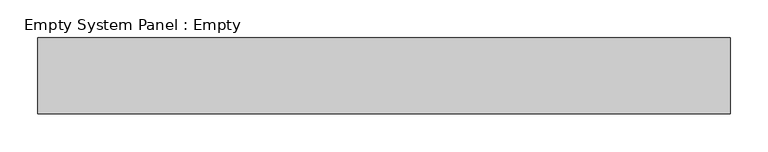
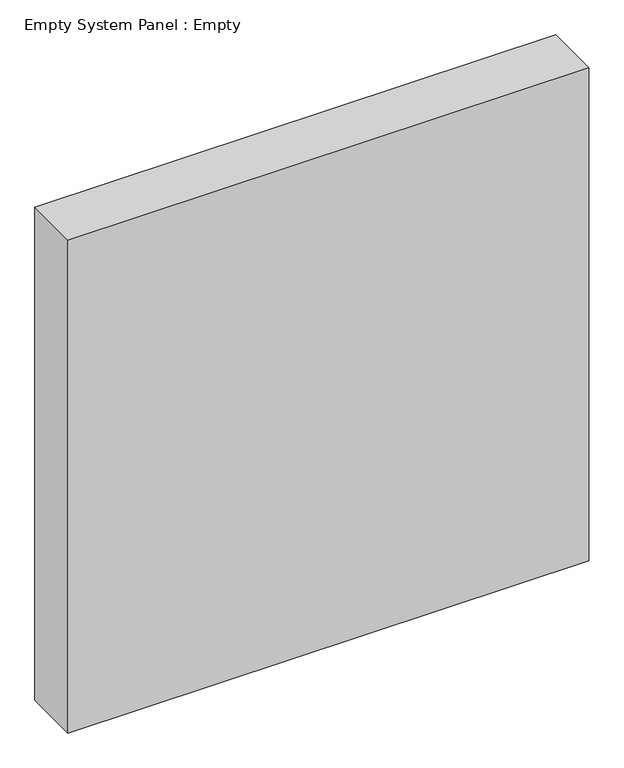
"""IFC4 building model written with IfcOpenShell, lengths in millimetres: plate geometry, Empty System Panel : Empty."""

from ifc_helpers import new_model, si_unit, origin, origin_with_axes, place, context, project, spatial, polyline, outline, extrude, source, transform, mapped, element, save


def empty_system_panel_empty_36c81836(model_context):
    return source(origin(), model_context, "Body", "SweptSolid", [
        extrude(outline(polyline([(456.25, -50.0), (-456.25, -50.0), (-456.25, 50.0), (456.25, 50.0), (456.25, -50.0)])), origin_with_axes(), (0.0, 0.0, 1.0), 912.5),
    ])


if __name__ == "__main__":
    model = new_model("IFC4")
    model_context = context("Model", 3, world=origin())
    ifc_project = project(units=[si_unit("LENGTHUNIT", "METRE", prefix="MILLI")], contexts=[model_context])
    site = spatial("IfcSite", under=ifc_project)
    building = spatial("IfcBuilding", under=site)
    placement = place(None, origin())
    empty_system_panel_empty_shape = empty_system_panel_empty_36c81836(model_context)
    element("IfcPlate", 1, ObjectType="Empty System Panel : Empty", at=placement, inside=building, context=model_context, shape_type="MappedRepresentation", body=[
        mapped(empty_system_panel_empty_shape, transform((0.0, 0.0, 0.0), x_axis=(1.0, 0.0, 0.0), y_axis=(0.0, 1.0, 0.0), z_axis=(0.0, 0.0, 1.0))),
    ])
    save(model, "model.ifc")
